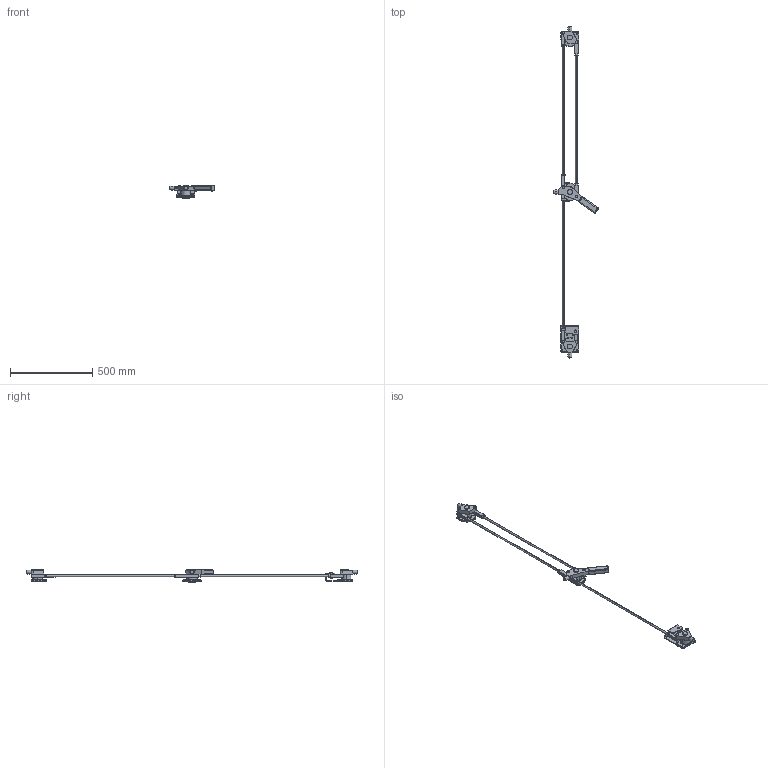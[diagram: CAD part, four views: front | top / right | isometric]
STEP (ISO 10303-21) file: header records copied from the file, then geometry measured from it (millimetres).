
FILE_DESCRIPTION (( 'STEP AP203' ), '1' );
FILE_NAME ('DL-4000-3S.STEP', '2014-03-04T07:47:08', ( 'SDS' ), ( 'SDS' ), 'SwSTEP 2.0', 'SolidWorks 2002296', '' );
FILE_SCHEMA (( 'CONFIG_CONTROL_DESIGN' ));
Length unit declared in the file: millimetre
Products named in the file (11): DL-4000-3S; DL-4000-3S1_蹬怮椔; DL-4000-3S2_蹬怮椔; DL-4000-3S3_蹬怮椔; DL-4000-3S4_蹬怮椔; DL-4000-3S5_蹬怮椔; DL-4000-3S6_蹬怮椔; DL-4000-3S7_蹬怮椔; DL-4000-3S8_蹬怮椔; DL-4000-3S9_蹬怮椔; DL-4000-3S10_蹬怮椔
Assembly tree (10 placements, depth 2):
  DL-4000-3S
    DL-4000-3S5_蹬怮椔
    DL-4000-3S4_蹬怮椔
    DL-4000-3S6_蹬怮椔
    DL-4000-3S10_蹬怮椔
    DL-4000-3S1_蹬怮椔
    DL-4000-3S2_蹬怮椔
    DL-4000-3S9_蹬怮椔
    DL-4000-3S8_蹬怮椔
    DL-4000-3S7_蹬怮椔
    DL-4000-3S3_蹬怮椔
Bounding box: 274.52 x 2020 x 83 mm (x, y, z)
Volume: 1705387.3 mm3; surface area: 379142.2 mm2
Topology: 10 solids, 10 shells, 504 faces, 1162 edges, 738 vertices
Faces by surface type: plane 216, cylinder 213, cone 42, bspline 33
Entity records: 16191 total; most frequent: CARTESIAN_POINT 3384, DIRECTION 2536, ORIENTED_EDGE 2318, EDGE_CURVE 1159, AXIS2_PLACEMENT_3D 994, VERTEX_POINT 738, EDGE_LOOP 619, LINE 548
